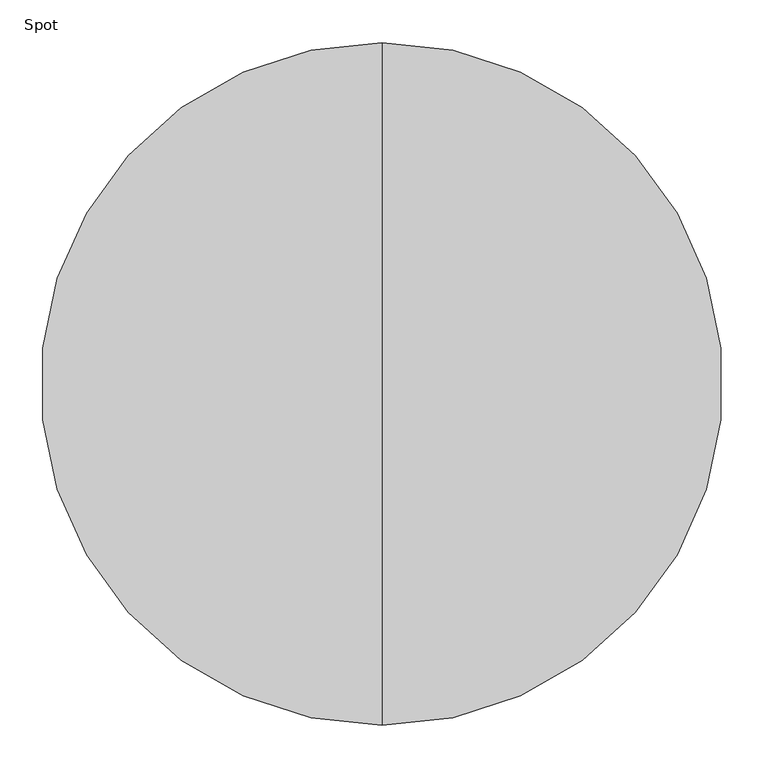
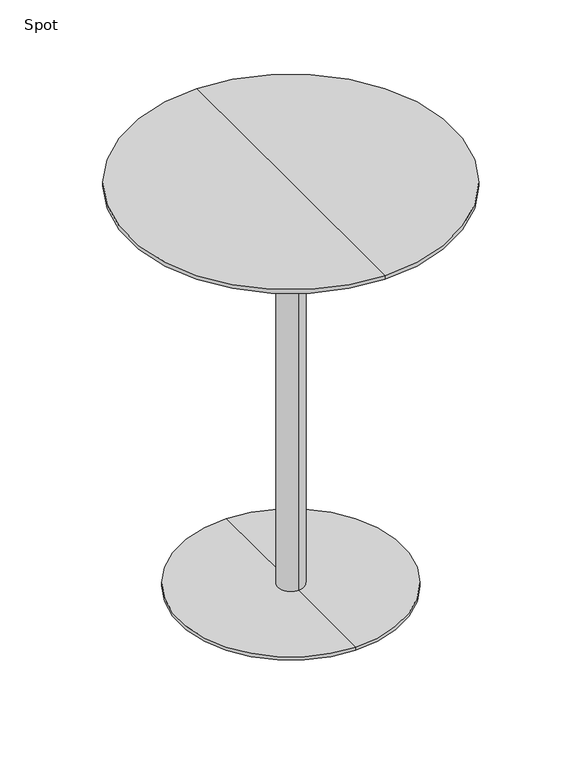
"""IFC4 building model written with IfcOpenShell, lengths in millimetres: furniture geometry, Spot : Bø80x105."""

from ifc_helpers import new_model, si_unit, frame, origin, place, context, project, spatial, polyline, circle_curve, source, transform, mapped, element, save
from ifc_brep_helpers import plane_surface, cylinder_surface, revolved_surface, advanced_brep


def spot_e5f4c73c(model_context):
    return source(origin(), model_context, "Body", "AdvancedBrep", [
        advanced_brep(
        [(0.0, 400.0, 1050.0), (0.0, -400.0, 1050.0), (0.0, 0.0, 1050.0), (0.0, 400.0, 1040.25), (0.0, -400.0, 1040.25), (0.0, 354.2823776, 1028.0), (0.0, -354.2823776, 1028.0), (0.0, 0.0, 1028.0)],
        [
            (0, 1, circle_curve(frame((0.0, 0.0, 1050.0), z_axis=(0.0, 0.0, 1.0), x_axis=(0.0, -1.0, 0.0)), 400.0)),
            (1, 2),
            (2, 0),
            (1, 0, circle_curve(frame((0.0, 0.0, 1050.0), z_axis=(0.0, 0.0, 1.0), x_axis=(0.0, -1.0, 0.0)), 400.0)),
            (3, 4, circle_curve(frame((0.0, 0.0, 1040.25), z_axis=(0.0, 0.0, 1.0), x_axis=(0.0, -1.0, 0.0)), 400.0)),
            (4, 1),
            (0, 3),
            (4, 3, circle_curve(frame((0.0, 0.0, 1040.25), z_axis=(0.0, 0.0, 1.0), x_axis=(0.0, -1.0, 0.0)), 400.0)),
            (5, 6, circle_curve(frame((0.0, 0.0, 1028.0), z_axis=(0.0, 0.0, 1.0), x_axis=(0.0, -1.0, 0.0)), 354.2823776)),
            (6, 4),
            (3, 5),
            (6, 5, circle_curve(frame((0.0, 0.0, 1028.0), z_axis=(0.0, 0.0, 1.0), x_axis=(0.0, -1.0, 0.0)), 354.2823776)),
            (7, 6),
            (5, 7),
        ],
        [
            plane_surface(frame((0.0, 0.0, 1050.0), z_axis=(0.0, 0.0, 1.0), x_axis=(0.0, -1.0, 0.0))),
            cylinder_surface(frame((0.0, 0.0, 1130.0), z_axis=(0.0, 0.0, -1.0), x_axis=(0.0, -1.0, 0.0)), 400.0),
            revolved_surface(polyline([(0.0, -400.0, 1040.25), (0.0, -354.2823776, 1028.0)]), (0.0, 0.0, 1130.0), (0.0, 0.0, -1.0)),
            plane_surface(frame((0.0, 0.0, 1028.0), z_axis=(0.0, 0.0, -1.0), x_axis=(0.0, -1.0, 0.0))),
        ],
        [
            (0, [[1, 2, 3]]),
            (0, [[4, -3, -2]]),
            (1, [[5, 6, -1, 7]]),
            (1, [[8, -7, -4, -6]]),
            (2, [[9, 10, -5, 11]]),
            (2, [[12, -11, -8, -10]]),
            (3, [[13, -9, 14]]),
            (3, [[-14, -12, -13]]),
        ],
    ),
        advanced_brep(
        [(0.0, 32.0, 10.0), (0.0, -32.0, 10.0), (0.0, -32.0, 997.406916), (0.0, 32.0, 997.406916), (0.0, 275.0, 10.0), (0.0, -275.0, 10.0), (0.0, 275.0, 2.0), (0.0, -275.0, 2.0), (0.0, 0.0, 2.0), (0.0, 150.0, 1028.0), (0.0, -150.0, 1028.0), (0.0, 0.0, 1028.0), (0.0, 150.0, 1016.7213673), (0.0, -150.0, 1016.7213673)],
        [
            (0, 1, circle_curve(frame((0.0, 0.0, 10.0), z_axis=(0.0, 0.0, 1.0), x_axis=(0.0, -1.0, 0.0)), 32.0)),
            (1, 2),
            (2, 3, circle_curve(frame((0.0, 0.0, 997.406916), z_axis=(0.0, 0.0, -1.0), x_axis=(0.0, -1.0, 0.0)), 32.0)),
            (3, 0),
            (1, 0, circle_curve(frame((0.0, 0.0, 10.0), z_axis=(0.0, 0.0, 1.0), x_axis=(0.0, -1.0, 0.0)), 32.0)),
            (3, 2, circle_curve(frame((0.0, 0.0, 997.406916), z_axis=(0.0, 0.0, -1.0), x_axis=(0.0, -1.0, 0.0)), 32.0)),
            (4, 5, circle_curve(frame((0.0, 0.0, 10.0), z_axis=(0.0, 0.0, 1.0), x_axis=(0.0, -1.0, 0.0)), 275.0)),
            (5, 1),
            (0, 4),
            (5, 4, circle_curve(frame((0.0, 0.0, 10.0), z_axis=(0.0, 0.0, 1.0), x_axis=(0.0, -1.0, 0.0)), 275.0)),
            (6, 7, circle_curve(frame((0.0, 0.0, 2.0), z_axis=(0.0, 0.0, 1.0), x_axis=(0.0, -1.0, 0.0)), 275.0)),
            (7, 5),
            (4, 6),
            (7, 6, circle_curve(frame((0.0, 0.0, 2.0), z_axis=(0.0, 0.0, 1.0), x_axis=(0.0, -1.0, 0.0)), 275.0)),
            (8, 7),
            (6, 8),
            (9, 10, circle_curve(frame((0.0, 0.0, 1028.0), z_axis=(0.0, 0.0, 1.0), x_axis=(0.0, -1.0, 0.0)), 150.0)),
            (10, 11),
            (11, 9),
            (10, 9, circle_curve(frame((0.0, 0.0, 1028.0), z_axis=(0.0, 0.0, 1.0), x_axis=(0.0, -1.0, 0.0)), 150.0)),
            (12, 13, circle_curve(frame((0.0, 0.0, 1016.7213673), z_axis=(0.0, 0.0, 1.0), x_axis=(0.0, -1.0, 0.0)), 150.0)),
            (13, 10),
            (9, 12),
            (13, 12, circle_curve(frame((0.0, 0.0, 1016.7213673), z_axis=(0.0, 0.0, 1.0), x_axis=(0.0, -1.0, 0.0)), 150.0)),
            (2, 13),
            (12, 3),
        ],
        [
            cylinder_surface(frame((0.0, 0.0, 1390.0), z_axis=(0.0, 0.0, -1.0), x_axis=(0.0, -1.0, 0.0)), 32.0),
            plane_surface(frame((0.0, 0.0, 10.0), z_axis=(0.0, 0.0, 1.0), x_axis=(0.0, -1.0, 0.0))),
            cylinder_surface(frame((0.0, 0.0, 1390.0), z_axis=(0.0, 0.0, -1.0), x_axis=(0.0, -1.0, 0.0)), 275.0),
            plane_surface(frame((0.0, 0.0, 2.0), z_axis=(0.0, 0.0, -1.0), x_axis=(0.0, -1.0, 0.0))),
            plane_surface(frame((0.0, 0.0, 1028.0), z_axis=(0.0, 0.0, 1.0), x_axis=(0.0, -1.0, 0.0))),
            cylinder_surface(frame((0.0, 0.0, 1390.0), z_axis=(0.0, 0.0, -1.0), x_axis=(0.0, -1.0, 0.0)), 150.0),
            revolved_surface(polyline([(0.0, -150.0, 1016.7213673), (0.0, -32.0, 997.406916)]), (0.0, 0.0, 1390.0), (0.0, 0.0, -1.0)),
        ],
        [
            (0, [[1, 2, 3, 4]]),
            (0, [[5, -4, 6, -2]]),
            (1, [[7, 8, -1, 9]]),
            (1, [[10, -9, -5, -8]]),
            (2, [[11, 12, -7, 13]]),
            (2, [[14, -13, -10, -12]]),
            (3, [[15, -11, 16]]),
            (3, [[-16, -14, -15]]),
            (4, [[17, 18, 19]]),
            (4, [[20, -19, -18]]),
            (5, [[21, 22, -17, 23]]),
            (5, [[24, -23, -20, -22]]),
            (6, [[-3, 25, -21, 26]]),
            (6, [[-6, -26, -24, -25]]),
        ],
    ),
    ])


if __name__ == "__main__":
    model = new_model("IFC4")
    model_context = context("Model", 3, world=origin())
    ifc_project = project(units=[si_unit("LENGTHUNIT", "METRE", prefix="MILLI")], contexts=[model_context])
    site = spatial("IfcSite", under=ifc_project)
    building = spatial("IfcBuilding", under=site)
    placement = place(None, origin())
    spot_shape = spot_e5f4c73c(model_context)
    element("IfcFurniture", 1, ObjectType="Spot : Bø80x105", at=placement, inside=building, context=model_context, shape_type="MappedRepresentation", body=[
        mapped(spot_shape, transform((0.0, 0.0, 0.0), x_axis=(1.0, 0.0, 0.0), y_axis=(0.0, 1.0, 0.0), z_axis=(0.0, 0.0, 1.0))),
    ])
    save(model, "model.ifc")
